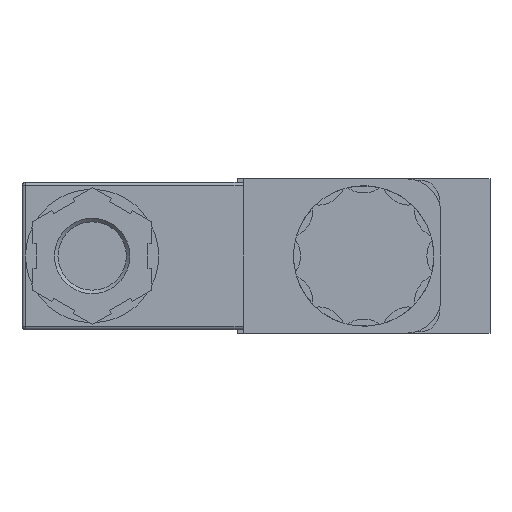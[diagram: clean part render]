
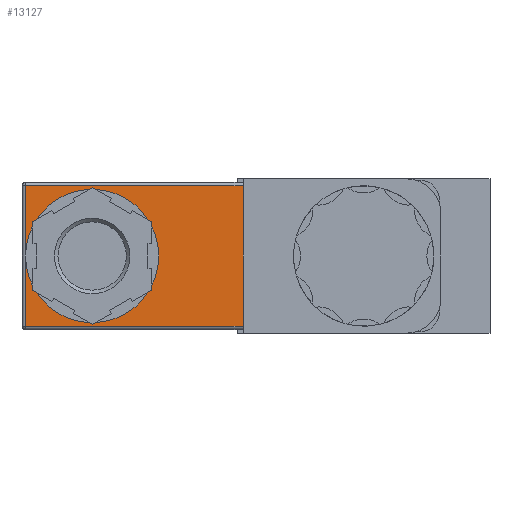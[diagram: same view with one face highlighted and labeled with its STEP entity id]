
A CAD part, left-side view. The second image highlights one B-rep face of the part: STEP entity #13127.
In plain terms, the highlighted planar face has unit normal (-1, 0, 0).
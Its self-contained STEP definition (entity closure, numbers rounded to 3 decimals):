
#418=CIRCLE('',#13705,9.5);
#813=ORIENTED_EDGE('',*,*,#3287,.T.);
#814=ORIENTED_EDGE('',*,*,#3402,.T.);
#815=ORIENTED_EDGE('',*,*,#3403,.T.);
#816=ORIENTED_EDGE('',*,*,#3374,.F.);
#817=ORIENTED_EDGE('',*,*,#3404,.T.);
#818=ORIENTED_EDGE('',*,*,#3405,.T.);
#3287=EDGE_CURVE('',#4603,#4602,#5520,.T.);
#3374=EDGE_CURVE('',#4674,#4674,#418,.F.);
#3402=EDGE_CURVE('',#4602,#4695,#5622,.F.);
#3403=EDGE_CURVE('',#4695,#4674,#5623,.F.);
#3404=EDGE_CURVE('',#4674,#4696,#5624,.F.);
#3405=EDGE_CURVE('',#4696,#4603,#5625,.F.);
#4602=VERTEX_POINT('',#16795);
#4603=VERTEX_POINT('',#16797);
#4674=VERTEX_POINT('',#16969);
#4695=VERTEX_POINT('',#17031);
#4696=VERTEX_POINT('',#17034);
#5520=LINE('',#16796,#6441);
#5622=LINE('',#17030,#6543);
#5623=LINE('',#17032,#6544);
#5624=LINE('',#17033,#6545);
#5625=LINE('',#17035,#6546);
#6441=VECTOR('',#14427,1000.);
#6543=VECTOR('',#14609,1000.);
#6544=VECTOR('',#14610,1000.);
#6545=VECTOR('',#14611,1000.);
#6546=VECTOR('',#14612,1000.);
#7382=EDGE_LOOP('',(#813,#814,#815,#816,#817,#818));
#8138=FACE_BOUND('',#7382,.T.);
#8881=PLANE('',#13724);
#13127=ADVANCED_FACE('',(#8138),#8881,.F.);
#13705=AXIS2_PLACEMENT_3D('',#16968,#14548,#14549);
#13724=AXIS2_PLACEMENT_3D('',#17029,#14607,#14608);
#14427=DIRECTION('',(0.,0.,1.));
#14548=DIRECTION('',(1.,0.,0.));
#14549=DIRECTION('',(0.,0.,1.));
#14607=DIRECTION('',(1.,0.,0.));
#14608=DIRECTION('',(0.,0.,1.));
#14609=DIRECTION('',(0.,-1.,0.));
#14610=DIRECTION('',(0.,0.,1.));
#14611=DIRECTION('',(0.,0.,1.));
#14612=DIRECTION('',(0.,1.,0.));
#16795=CARTESIAN_POINT('',(-114.218,17.2,10.));
#16796=CARTESIAN_POINT('',(-114.218,17.2,-7.5));
#16797=CARTESIAN_POINT('',(-114.218,17.2,-10.));
#16968=CARTESIAN_POINT('',(-114.218,38.7,0.));
#16969=CARTESIAN_POINT('',(-114.218,48.2,0.));
#17029=CARTESIAN_POINT('',(-114.218,45.7,6.245));
#17030=CARTESIAN_POINT('',(-114.218,45.7,10.));
#17031=CARTESIAN_POINT('',(-114.218,48.2,10.));
#17032=CARTESIAN_POINT('',(-114.218,48.2,-10.5));
#17033=CARTESIAN_POINT('',(-114.218,48.2,-10.5));
#17034=CARTESIAN_POINT('',(-114.218,48.2,-10.));
#17035=CARTESIAN_POINT('',(-114.218,45.7,-10.));
